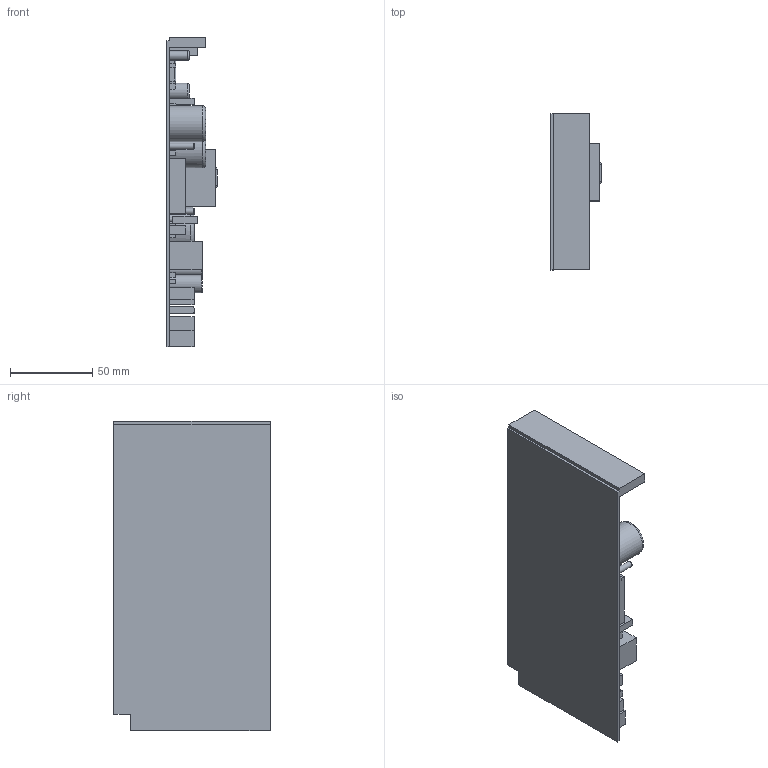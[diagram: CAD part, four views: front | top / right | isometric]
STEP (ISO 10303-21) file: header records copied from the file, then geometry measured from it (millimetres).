
FILE_DESCRIPTION(/* description */ (''),/* implementation_level */ '2;1');
FILE_NAME(/* name */ 'F:\file_Step\chân cắm 7 (dài) .stp',/* time_stamp */ '2019-10-03T16:22:10+07:00',/* author */ ('thanh'),/* organization */ (''),/* preprocessor_version */ 'ST-DEVELOPER v18',/* originating_system */ 'Autodesk Inventor 2020',/* authorisation */ '');
FILE_SCHEMA (('AUTOMOTIVE_DESIGN { 1 0 10303 214 3 1 1 }'));
Length unit declared in the file: millimetre
Products named in the file (1): chân cắm
Bounding box: 30.5 x 95 x 188 mm (x, y, z)
Volume: 134978.1 mm3; surface area: 75252.4 mm2
Topology: 1 solids, 1 shells, 880 faces, 2247 edges, 1442 vertices
Faces by surface type: plane 550, cylinder 236, bspline 61, torus 25, sphere 8
Full cylindrical faces by diameter (mm): 1 x14, 2.645 x1, 2.845 x1, 2.905 x1, 2.938 x1, 3.764 x2, 3.793 x1, 3.923 x1, 4.319 x1, 4.513 x1, 4.722 x1, 5 x7, 5.628 x1, 5.738 x1, 5.78 x1, 5.878 x1, 6.382 x1, 9.586 x1, 9.74 x1, 10.205 x1, 10.895 x1, 13.622 x1, 22 x2, 28.84 x1
Entity records: 27559 total; most frequent: CARTESIAN_POINT 5670, DIRECTION 4595, ORIENTED_EDGE 4490, EDGE_CURVE 2245, AXIS2_PLACEMENT_3D 1590, VERTEX_POINT 1442, LINE 1415, VECTOR 1415
